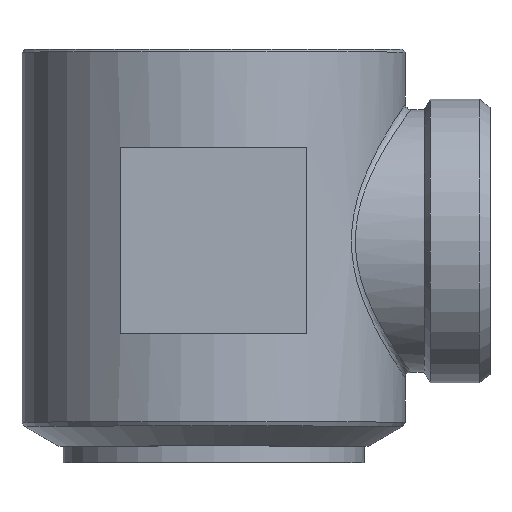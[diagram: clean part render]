
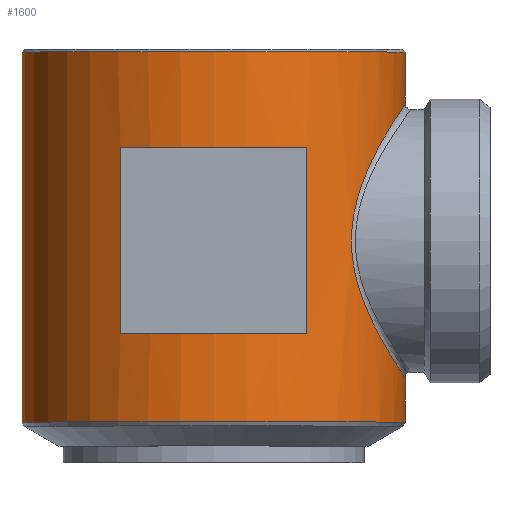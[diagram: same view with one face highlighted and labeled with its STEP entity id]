
A CAD part, top view. The second image highlights one B-rep face of the part: STEP entity #1600.
In plain terms, the highlighted cylindrical face has radius 35 mm (diameter 70 mm), a partial arc.
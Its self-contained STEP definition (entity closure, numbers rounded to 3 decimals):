
#281=CARTESIAN_POINT('',(-35.0,54.25,0.));
#282=VERTEX_POINT('',#281);
#298=CARTESIAN_POINT('',(35.0,54.25,0.0));
#299=VERTEX_POINT('',#298);
#363=CARTESIAN_POINT('',(35.0,-13.353,0.));
#364=VERTEX_POINT('',#363);
#365=CARTESIAN_POINT('',(35.0,-5.25,0.));
#366=VERTEX_POINT('',#365);
#367=CARTESIAN_POINT('',(35.0,-13.353,0.));
#368=DIRECTION('',(0.0,1.0,0.0));
#369=VECTOR('',#368,8.103);
#370=LINE('',#367,#369);
#371=EDGE_CURVE('',#364,#366,#370,.T.);
#373=CARTESIAN_POINT('',(-35.0,-13.353,0.0));
#374=VERTEX_POINT('',#373);
#382=CARTESIAN_POINT('',(-35.0,54.25,0.));
#383=DIRECTION('',(0.0,-1.0,0.0));
#384=VECTOR('',#383,67.603);
#385=LINE('',#382,#384);
#386=EDGE_CURVE('',#282,#374,#385,.T.);
#389=CARTESIAN_POINT('',(35.0,44.75,0.));
#390=VERTEX_POINT('',#389);
#391=CARTESIAN_POINT('',(35.0,44.75,0.));
#392=DIRECTION('',(0.0,1.0,0.0));
#393=VECTOR('',#392,9.5);
#394=LINE('',#391,#393);
#395=EDGE_CURVE('',#390,#299,#394,.T.);
#1487=CARTESIAN_POINT('',(0.0,-13.353,0.0));
#1488=DIRECTION('',(0.0,-1.0,0.0));
#1489=DIRECTION('',(1.0,0.0,0.0));
#1490=AXIS2_PLACEMENT_3D('',#1487,#1488,#1489);
#1491=CIRCLE('',#1490,35.0);
#1492=EDGE_CURVE('',#364,#374,#1491,.T.);
#1505=CARTESIAN_POINT('',(0.0,-17.75,0.0));
#1506=DIRECTION('',(0.0,1.0,0.0));
#1507=DIRECTION('',(1.0,0.0,0.0));
#1508=AXIS2_PLACEMENT_3D('',#1505,#1506,#1507);
#1509=CYLINDRICAL_SURFACE('',#1508,35.0);
#1510=ORIENTED_EDGE('',*,*,#371,.T.);
#1511=CARTESIAN_POINT('',(35.0,-5.25,0.));
#1512=CARTESIAN_POINT('',(35.0,-5.25,0.136));
#1513=CARTESIAN_POINT('',(34.999,-5.249,0.272));
#1514=CARTESIAN_POINT('',(34.944,-5.168,4.973));
#1515=CARTESIAN_POINT('',(33.929,-3.709,9.45));
#1516=CARTESIAN_POINT('',(30.956,1.137,16.817));
#1517=CARTESIAN_POINT('',(28.988,4.518,19.775));
#1518=CARTESIAN_POINT('',(26.592,10.747,22.796));
#1519=CARTESIAN_POINT('',(25.894,13.093,23.555));
#1520=CARTESIAN_POINT('',(25.127,18.043,24.371));
#1521=CARTESIAN_POINT('',(25.084,20.627,24.413));
#1522=CARTESIAN_POINT('',(25.772,26.117,23.687));
#1523=CARTESIAN_POINT('',(26.635,28.961,22.767));
#1524=CARTESIAN_POINT('',(29.149,35.224,19.527));
#1525=CARTESIAN_POINT('',(30.966,38.372,16.741));
#1526=CARTESIAN_POINT('',(33.925,43.211,9.51));
#1527=CARTESIAN_POINT('',(34.971,44.707,4.905));
#1528=CARTESIAN_POINT('',(35.,44.75,0.142));
#1529=CARTESIAN_POINT('',(35.0,44.75,0.071));
#1530=CARTESIAN_POINT('',(35.0,44.75,0.));
#1531=B_SPLINE_CURVE_WITH_KNOTS('',3,(#1511,#1512,#1513,#1514,#1515,#1516,#1517,#1518,#1519,#1520,#1521,#1522,#1523,#1524,#1525,#1526,#1527,#1528,#1529,#1530),.UNSPECIFIED.,.F.,.U.,(4,2,2,2,2,2,2,2,2,4),(37.79,38.179,51.26,64.606,71.668,78.731,87.221,99.733,113.173,113.376),.UNSPECIFIED.);
#1532=EDGE_CURVE('',#390,#366,#1531,.F.);
#1533=ORIENTED_EDGE('',*,*,#1532,.F.);
#1534=ORIENTED_EDGE('',*,*,#395,.T.);
#1535=CARTESIAN_POINT('',(0.0,54.25,0.0));
#1536=DIRECTION('',(0.0,1.0,0.0));
#1537=DIRECTION('',(-1.0,0.0,0.0));
#1538=AXIS2_PLACEMENT_3D('',#1535,#1536,#1537);
#1539=CIRCLE('',#1538,35.0);
#1540=EDGE_CURVE('',#282,#299,#1539,.T.);
#1541=ORIENTED_EDGE('',*,*,#1540,.F.);
#1542=ORIENTED_EDGE('',*,*,#386,.T.);
#1543=ORIENTED_EDGE('',*,*,#1492,.F.);
#1544=EDGE_LOOP('',(#1510,#1533,#1534,#1541,#1542,#1543));
#1545=FACE_OUTER_BOUND('',#1544,.T.);
#1546=CARTESIAN_POINT('',(-17.,2.75,30.594));
#1547=VERTEX_POINT('',#1546);
#1548=CARTESIAN_POINT('',(-17.,36.75,30.594));
#1549=VERTEX_POINT('',#1548);
#1550=CARTESIAN_POINT('',(-17.,2.75,30.594));
#1551=DIRECTION('',(0.0,1.0,0.0));
#1552=VECTOR('',#1551,34.0);
#1553=LINE('',#1550,#1552);
#1554=EDGE_CURVE('',#1547,#1549,#1553,.T.);
#1555=ORIENTED_EDGE('',*,*,#1554,.T.);
#1556=CARTESIAN_POINT('',(0.0,36.75,35.0));
#1557=VERTEX_POINT('',#1556);
#1558=CARTESIAN_POINT('',(0.0,36.75,0.0));
#1559=DIRECTION('',(0.0,1.0,0.0));
#1560=DIRECTION('',(1.0,0.0,0.0));
#1561=AXIS2_PLACEMENT_3D('',#1558,#1559,#1560);
#1562=CIRCLE('',#1561,35.0);
#1563=EDGE_CURVE('',#1549,#1557,#1562,.T.);
#1564=ORIENTED_EDGE('',*,*,#1563,.T.);
#1565=CARTESIAN_POINT('',(17.,36.75,30.594));
#1566=VERTEX_POINT('',#1565);
#1567=CARTESIAN_POINT('',(0.0,36.75,0.0));
#1568=DIRECTION('',(0.0,1.0,0.0));
#1569=DIRECTION('',(1.0,0.0,0.0));
#1570=AXIS2_PLACEMENT_3D('',#1567,#1568,#1569);
#1571=CIRCLE('',#1570,35.0);
#1572=EDGE_CURVE('',#1557,#1566,#1571,.T.);
#1573=ORIENTED_EDGE('',*,*,#1572,.T.);
#1574=CARTESIAN_POINT('',(17.0,2.75,30.594));
#1575=VERTEX_POINT('',#1574);
#1576=CARTESIAN_POINT('',(17.,36.75,30.594));
#1577=DIRECTION('',(0.0,-1.0,0.0));
#1578=VECTOR('',#1577,34.0);
#1579=LINE('',#1576,#1578);
#1580=EDGE_CURVE('',#1566,#1575,#1579,.T.);
#1581=ORIENTED_EDGE('',*,*,#1580,.T.);
#1582=CARTESIAN_POINT('',(0.0,2.75,35.0));
#1583=VERTEX_POINT('',#1582);
#1584=CARTESIAN_POINT('',(0.0,2.75,0.0));
#1585=DIRECTION('',(0.0,-1.0,0.0));
#1586=DIRECTION('',(1.0,0.0,0.0));
#1587=AXIS2_PLACEMENT_3D('',#1584,#1585,#1586);
#1588=CIRCLE('',#1587,35.0);
#1589=EDGE_CURVE('',#1575,#1583,#1588,.T.);
#1590=ORIENTED_EDGE('',*,*,#1589,.T.);
#1591=CARTESIAN_POINT('',(0.0,2.75,0.0));
#1592=DIRECTION('',(0.0,-1.0,0.0));
#1593=DIRECTION('',(1.0,0.0,0.0));
#1594=AXIS2_PLACEMENT_3D('',#1591,#1592,#1593);
#1595=CIRCLE('',#1594,35.0);
#1596=EDGE_CURVE('',#1583,#1547,#1595,.T.);
#1597=ORIENTED_EDGE('',*,*,#1596,.T.);
#1598=EDGE_LOOP('',(#1555,#1564,#1573,#1581,#1590,#1597));
#1599=FACE_BOUND('',#1598,.T.);
#1600=ADVANCED_FACE('',(#1545,#1599),#1509,.T.);
